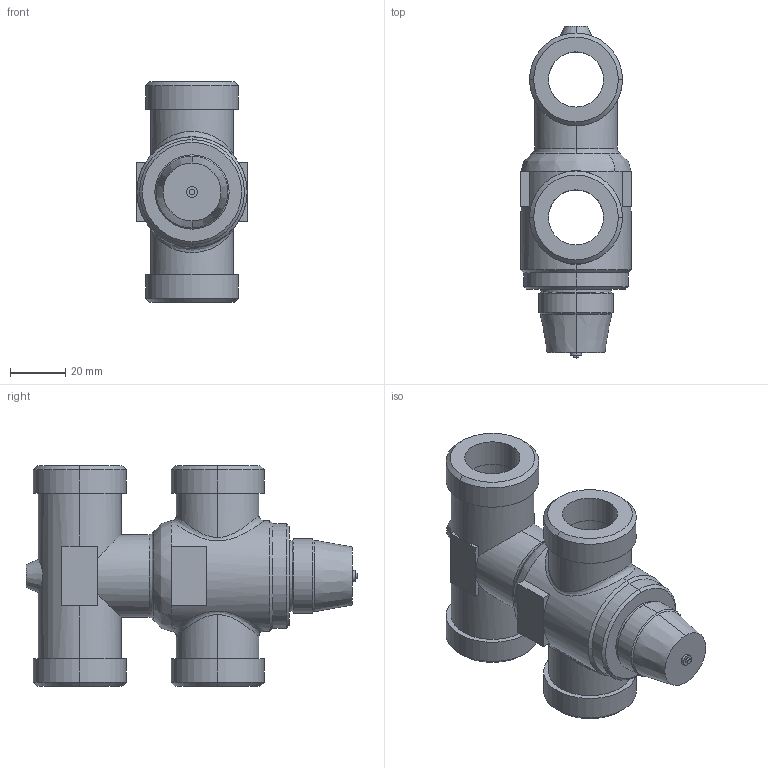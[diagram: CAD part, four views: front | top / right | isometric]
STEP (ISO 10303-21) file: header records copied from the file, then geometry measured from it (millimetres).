
FILE_DESCRIPTION((''),'2;1');
FILE_NAME('000392.dwg.stp','2006-10-04T11:28:56',(''),(''),'Mechanical Desktop 2006','Mechanical Desktop 2006',', , ');
FILE_SCHEMA(('AUTOMOTIVE_DESIGN { 1 2 10303 214 0 1 1 1 }'));
Length unit declared in the file: millimetre
Products named in the file (1): Product
Bounding box: 40.27 x 120.35 x 80 mm (x, y, z)
Volume: 115929 mm3; surface area: 41633.9 mm2
Topology: 10 solids, 10 shells, 117 faces, 267 edges, 169 vertices
Faces by surface type: cylinder 41, plane 39, cone 20, bspline 17
Entity records: 4446 total; most frequent: CARTESIAN_POINT 1703, DIRECTION 588, ORIENTED_EDGE 534, EDGE_CURVE 267, AXIS2_PLACEMENT_3D 239, VERTEX_POINT 169, EDGE_LOOP 130, CIRCLE 126
